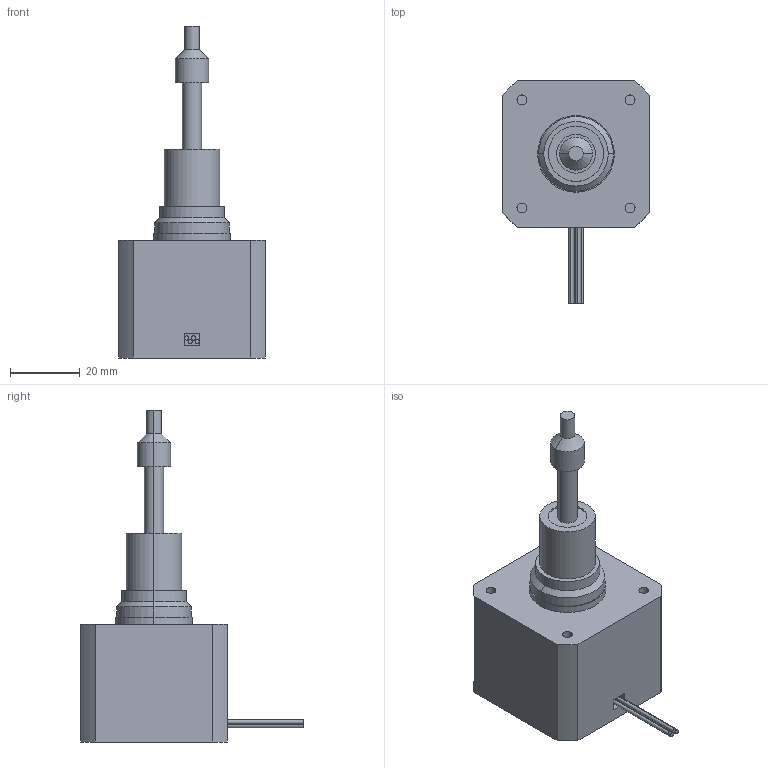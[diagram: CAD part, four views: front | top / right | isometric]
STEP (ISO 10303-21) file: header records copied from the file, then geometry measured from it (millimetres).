
FILE_DESCRIPTION (( 'STEP AP214' ), '1' );
FILE_NAME ('EAC37A79-8149-4735-B153-5354AABFD3F6.STEP', '2026-06-01T07:58:36', ( '' ), ( '' ), 'SwSTEP 2.0', 'SolidWorks 2022', '' );
FILE_SCHEMA (( 'AUTOMOTIVE_DESIGN' ));
Length unit declared in the file: inch
Products named in the file (1): EAC37A79-8149-4735-B153-5354AABFD3F6
Bounding box: 42.2 x 64.03 x 95.33 mm (x, y, z)
Volume: 65068.8 mm3; surface area: 12663.8 mm2
Topology: 2 solids, 2 shells, 71 faces, 148 edges, 96 vertices
Faces by surface type: cylinder 40, plane 27, cone 4
Entity records: 2857 total; most frequent: DIRECTION 372, CARTESIAN_POINT 316, ORIENTED_EDGE 296, AXIS2_PLACEMENT_3D 152, EDGE_CURVE 148, VERTEX_POINT 96, EDGE_LOOP 88, CIRCLE 80
